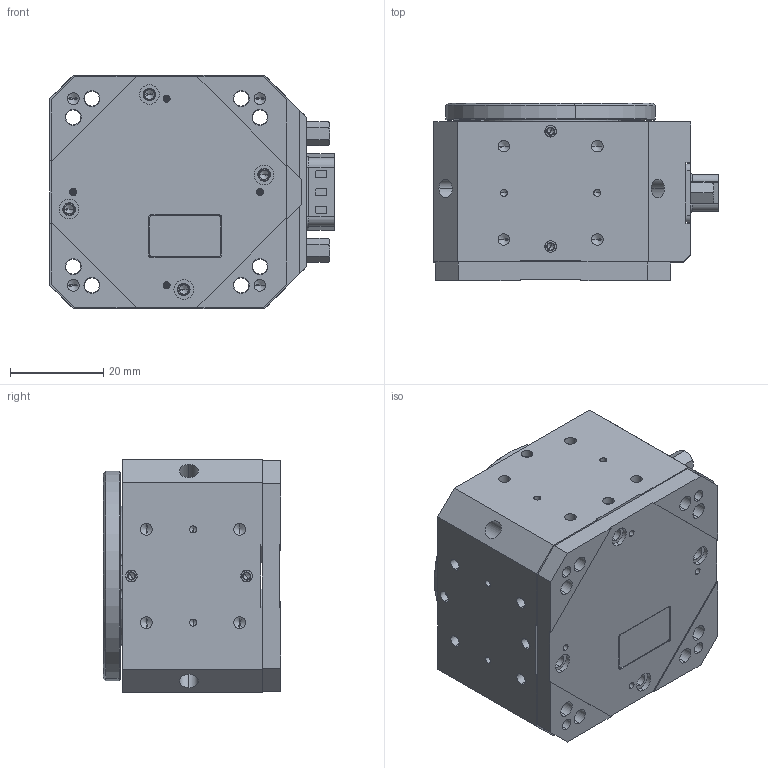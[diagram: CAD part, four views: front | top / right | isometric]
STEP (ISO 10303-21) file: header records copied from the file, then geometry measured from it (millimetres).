
FILE_DESCRIPTION (( 'STEP AP214' ), '1' );
FILE_NAME ('PR-50-21200.STEP', '2015-02-24T18:05:50', ( '' ), ( '' ), 'SwSTEP 2.0', 'SolidWorks 2014', '' );
FILE_SCHEMA (( 'AUTOMOTIVE_DESIGN' ));
Length unit declared in the file: millimetre
Products named in the file (11): SD9P; 430648 PR-50, Carriage; 430647 PR-50, Base; 37x30x4 Bearing; Set Screw, Cup-H, M-DIN_M3 x 0.5 x 05mm; 430649 PR-50, Bearing Adapter; 430651-A PR-50, Encoder Adapter, NJ 8x13; 130008 D-sub Standoff; PR-50-21200; 430438 PPS 28, Back Cover, NJ8x13; SCREW, SHCS-S, M-DIN_M2.5 x 0.45 x 04mm
Assembly tree (25 placements, depth 2):
  PR-50-21200
    Set Screw, Cup-H, M-DIN_M3 x 0.5 x 05mm  x12
    430648 PR-50, Carriage
    SCREW, SHCS-S, M-DIN_M2.5 x 0.45 x 04mm  x4
    130008 D-sub Standoff  x2
    430649 PR-50, Bearing Adapter
    37x30x4 Bearing
    430647 PR-50, Base
    SD9P
    430438 PPS 28, Back Cover, NJ8x13
    430651-A PR-50, Encoder Adapter, NJ 8x13
Bounding box: 60.88 x 38.05 x 50 mm (x, y, z)
Volume: 59174.3 mm3; surface area: 35979.8 mm2
Topology: 25 solids, 25 shells, 2207 faces, 5063 edges, 2877 vertices
Faces by surface type: cylinder 894, cone 743, plane 492, torus 40, bspline 38
Entity records: 35682 total; most frequent: CARTESIAN_POINT 8420, DIRECTION 5223, ORIENTED_EDGE 4864, EDGE_CURVE 2432, AXIS2_PLACEMENT_3D 1993, VERTEX_POINT 1542, VECTOR 1237, LINE 1237
